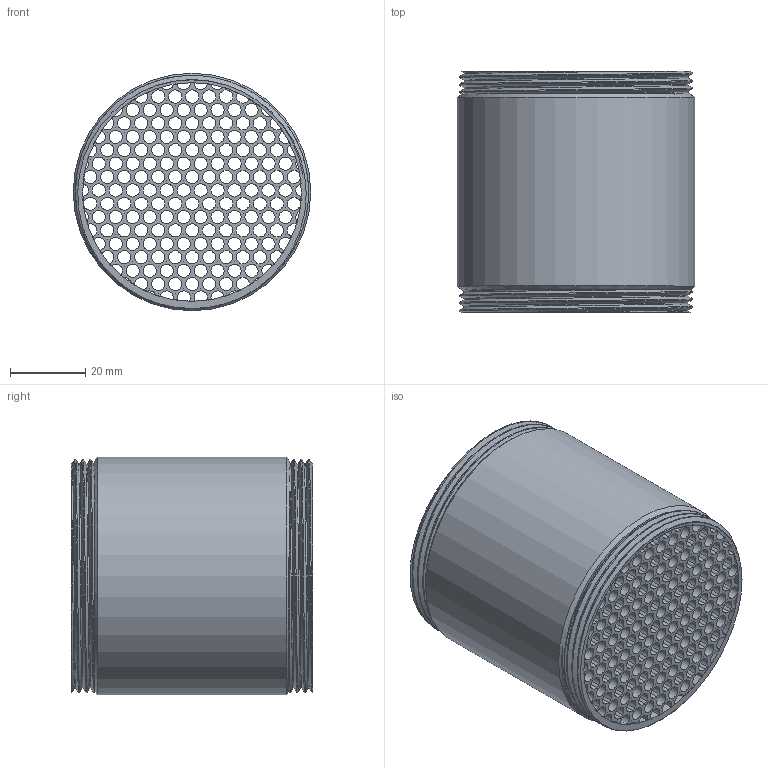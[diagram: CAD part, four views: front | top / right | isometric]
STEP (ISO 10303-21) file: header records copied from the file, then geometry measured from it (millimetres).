
FILE_DESCRIPTION(/* description */ (''),/* implementation_level */ '2;1');
FILE_NAME(/* name */ '/Users/josh/Downloads/laminar/middle-segment.step',/* time_stamp */ '2020-08-31T13:11:24-06:00',/* author */ (''),/* organization */ (''),/* preprocessor_version */ 'ST-DEVELOPER v18.1',/* originating_system */ 'Autodesk Translation Framework v9.3.0.1241',/* authorisation */ '');
FILE_SCHEMA (('AUTOMOTIVE_DESIGN { 1 0 10303 214 3 1 1 }'));
Length unit declared in the file: millimetre
Products named in the file (2): Laminar Flow; Component5
Assembly tree (1 placements, depth 2):
  Laminar Flow
    Component5
Bounding box: 63 x 63.92 x 63 mm (x, y, z)
Volume: 95596.7 mm3; surface area: 149176.1 mm2
Topology: 2 solids, 2 shells, 1601 faces, 4792 edges, 3195 vertices
Faces by surface type: cylinder 1588, plane 6, bspline 4, cone 3
Full cylindrical faces by diameter (mm): 58 x1, 59.524 x4, 61.822 x6, 63 x1
Entity records: 59914 total; most frequent: CARTESIAN_POINT 12415, DIRECTION 11095, ORIENTED_EDGE 9584, EDGE_CURVE 4792, AXIS2_PLACEMENT_3D 4754, VERTEX_POINT 3195, CIRCLE 3154, EDGE_LOOP 2223
